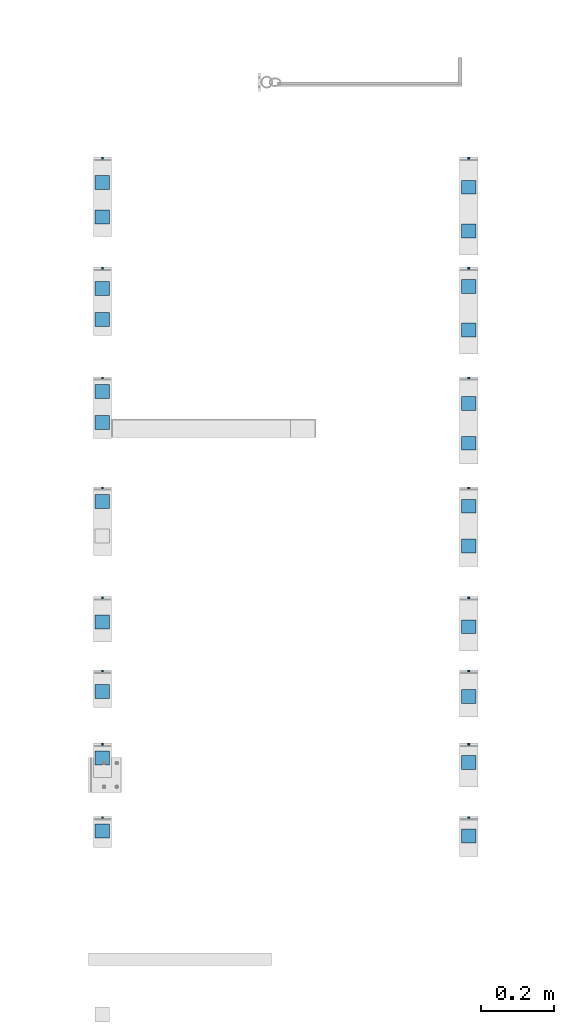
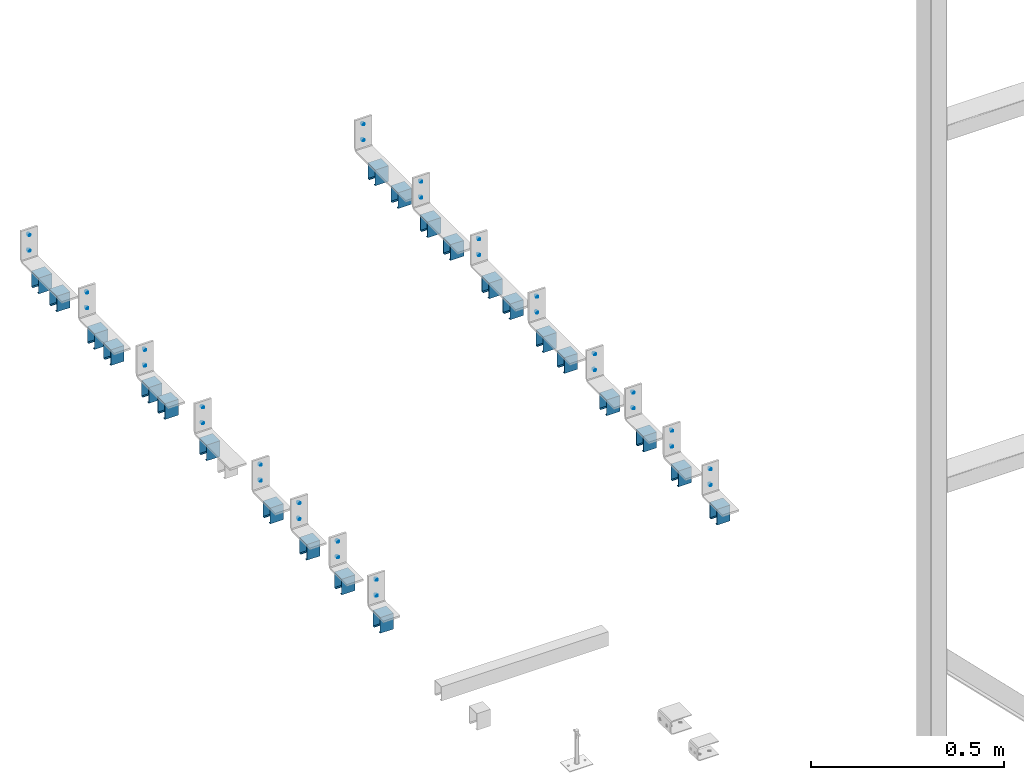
# One storey, part 58 of 91: 23 discrete accessories, 16 mechanical fasteners, 16 elements without a shape of their own.
"""IFC2X3 building model written with IfcOpenShell, lengths in millimetres."""

from ifc_helpers import new_model, si_unit, frame, origin_with_axes, origin_2d_with_axis, place, context, subcontext, project, spatial, circle, c_section, extrude, source, transform, mapped, material, type_object, element, aggregate, save


model = new_model("IFC2X3")

# Units and contexts
model_context = context("Model", 3, precision=1e-05, world=origin_with_axes())
body_context = subcontext(model_context, "Body", "Model", "MODEL_VIEW")
ifc_project = project(units=[si_unit("LENGTHUNIT", "METRE", prefix="MILLI"), si_unit("AREAUNIT", "SQUARE_METRE"), si_unit("VOLUMEUNIT", "CUBIC_METRE"), si_unit("MASSUNIT", "GRAM", prefix="KILO"), si_unit("TIMEUNIT", "SECOND"), si_unit("PLANEANGLEUNIT", "RADIAN"), si_unit("SOLIDANGLEUNIT", "STERADIAN"), si_unit("THERMODYNAMICTEMPERATUREUNIT", "DEGREE_CELSIUS"), si_unit("LUMINOUSINTENSITYUNIT", "LUMEN")], contexts=[model_context])

# Site, building, storey
site_placement = place(None, origin_with_axes())
site = spatial("IfcSite", under=ifc_project, at=site_placement, Name="Undefined", CompositionType="ELEMENT")
building_placement = place(site_placement, origin_with_axes())
building = spatial("IfcBuilding", under=site, at=building_placement, Name="Undefined", CompositionType="ELEMENT")
storey_placement = place(building_placement, origin_with_axes())
storey = spatial("IfcBuildingStorey", under=building, at=storey_placement, Name="Undefined", CompositionType="ELEMENT", Elevation=0.0)

# Assembly, mechanical fastener
assembly_1_placement = place(storey_placement, origin_with_axes())
assembly_1 = element("IfcElementAssembly", 1, at=assembly_1_placement, inside=storey, Name="SLIDING DOOR BRACKET", AssemblyPlace="NOTDEFINED", PredefinedType="RIGID_FRAME")
ifc_material_1 = material(Name="TEK_11TPIM")
discrete_accessory_type_1 = type_object("IfcDiscreteAccessoryType", Name="Bolt assembly")
shared_shape = source(origin_with_axes(), body_context, "Body", "SweptSolid", [
    extrude(circle(Radius=3.0, at=origin_2d_with_axis()), frame((0.0, -6.0, 0.0), z_axis=(0.0, 1.0, 0.0), x_axis=(1.0, 0.0, 0.0)), (0.0, 0.0, 1.0), 6.1),
])
mechanical_fastener_1_placement = place(assembly_1_placement, frame((-115795.84, 92552.15, 3521.0), z_axis=(1.0, 0.0, 0.0), x_axis=(0.0, 0.0, -1.0)))
mechanical_fastener_1 = element("IfcMechanicalFastener", 2, at=mechanical_fastener_1_placement, type_object=discrete_accessory_type_1, material=ifc_material_1, Name="Bolt assembly", NominalDiameter=6.0, NominalLength=16.0, context=body_context, shape_type="MappedRepresentation", body=[
    mapped(shared_shape, transform((0.0, 0.0, 0.0))),
    mapped(shared_shape, transform((50.0, 0.0, 0.0))),
])

assembly_2_placement = place(storey_placement, origin_with_axes())
assembly_2 = element("IfcElementAssembly", 3, at=assembly_2_placement, inside=storey, Name="SLIDING DOOR BRACKET", AssemblyPlace="NOTDEFINED", PredefinedType="RIGID_FRAME")
mechanical_fastener_2_placement = place(assembly_2_placement, frame((-115795.84, 92252.15, 3521.0), z_axis=(1.0, 0.0, 0.0), x_axis=(0.0, 0.0, -1.0)))
mechanical_fastener_2 = element("IfcMechanicalFastener", 4, at=mechanical_fastener_2_placement, type_object=discrete_accessory_type_1, material=ifc_material_1, Name="Bolt assembly", NominalDiameter=6.0, NominalLength=16.0, context=body_context, shape_type="MappedRepresentation", body=[
    mapped(shared_shape, transform((0.0, 0.0, 0.0))),
    mapped(shared_shape, transform((50.0, 0.0, 0.0))),
])

assembly_3_placement = place(storey_placement, origin_with_axes())
assembly_3 = element("IfcElementAssembly", 5, at=assembly_3_placement, inside=storey, Name="SLIDING DOOR BRACKET", AssemblyPlace="NOTDEFINED", PredefinedType="RIGID_FRAME")
mechanical_fastener_3_placement = place(assembly_3_placement, frame((-115795.84, 91952.15, 3521.0), z_axis=(1.0, 0.0, 0.0), x_axis=(0.0, 0.0, -1.0)))
mechanical_fastener_3 = element("IfcMechanicalFastener", 6, at=mechanical_fastener_3_placement, type_object=discrete_accessory_type_1, material=ifc_material_1, Name="Bolt assembly", NominalDiameter=6.0, NominalLength=16.0, context=body_context, shape_type="MappedRepresentation", body=[
    mapped(shared_shape, transform((0.0, 0.0, 0.0))),
    mapped(shared_shape, transform((50.0, 0.0, 0.0))),
])

assembly_4_placement = place(storey_placement, origin_with_axes())
assembly_4 = element("IfcElementAssembly", 7, at=assembly_4_placement, inside=storey, Name="SLIDING DOOR BRACKET", AssemblyPlace="NOTDEFINED", PredefinedType="RIGID_FRAME")
mechanical_fastener_4_placement = place(assembly_4_placement, frame((-115795.84, 91652.15, 3521.0), z_axis=(1.0, 0.0, 0.0), x_axis=(0.0, 0.0, -1.0)))
mechanical_fastener_4 = element("IfcMechanicalFastener", 8, at=mechanical_fastener_4_placement, type_object=discrete_accessory_type_1, material=ifc_material_1, Name="Bolt assembly", NominalDiameter=6.0, NominalLength=16.0, context=body_context, shape_type="MappedRepresentation", body=[
    mapped(shared_shape, transform((0.0, 0.0, 0.0))),
    mapped(shared_shape, transform((50.0, 0.0, 0.0))),
])

assembly_5_placement = place(storey_placement, origin_with_axes())
assembly_5 = element("IfcElementAssembly", 9, at=assembly_5_placement, inside=storey, Name="SLIDING DOOR BRACKET", AssemblyPlace="NOTDEFINED", PredefinedType="RIGID_FRAME")
mechanical_fastener_5_placement = place(assembly_5_placement, frame((-115795.84, 91352.15, 3521.0), z_axis=(1.0, 0.0, 0.0), x_axis=(0.0, 0.0, -1.0)))
mechanical_fastener_5 = element("IfcMechanicalFastener", 10, at=mechanical_fastener_5_placement, type_object=discrete_accessory_type_1, material=ifc_material_1, Name="Bolt assembly", NominalDiameter=6.0, NominalLength=16.0, context=body_context, shape_type="MappedRepresentation", body=[
    mapped(shared_shape, transform((0.0, 0.0, 0.0))),
    mapped(shared_shape, transform((50.0, 0.0, 0.0))),
])

assembly_6_placement = place(storey_placement, origin_with_axes())
assembly_6 = element("IfcElementAssembly", 11, at=assembly_6_placement, inside=storey, Name="SLIDING DOOR BRACKET", AssemblyPlace="NOTDEFINED", PredefinedType="RIGID_FRAME")
mechanical_fastener_6_placement = place(assembly_6_placement, frame((-115795.84, 91152.15, 3521.0), z_axis=(1.0, 0.0, 0.0), x_axis=(0.0, 0.0, -1.0)))
mechanical_fastener_6 = element("IfcMechanicalFastener", 12, at=mechanical_fastener_6_placement, type_object=discrete_accessory_type_1, material=ifc_material_1, Name="Bolt assembly", NominalDiameter=6.0, NominalLength=16.0, context=body_context, shape_type="MappedRepresentation", body=[
    mapped(shared_shape, transform((0.0, 0.0, 0.0))),
    mapped(shared_shape, transform((50.0, 0.0, 0.0))),
])

assembly_7_placement = place(storey_placement, origin_with_axes())
assembly_7 = element("IfcElementAssembly", 13, at=assembly_7_placement, inside=storey, Name="SLIDING DOOR BRACKET", AssemblyPlace="NOTDEFINED", PredefinedType="RIGID_FRAME")
mechanical_fastener_7_placement = place(assembly_7_placement, frame((-115795.84, 90952.15, 3521.0), z_axis=(1.0, 0.0, 0.0), x_axis=(0.0, 0.0, -1.0)))
mechanical_fastener_7 = element("IfcMechanicalFastener", 14, at=mechanical_fastener_7_placement, type_object=discrete_accessory_type_1, material=ifc_material_1, Name="Bolt assembly", NominalDiameter=6.0, NominalLength=16.0, context=body_context, shape_type="MappedRepresentation", body=[
    mapped(shared_shape, transform((0.0, 0.0, 0.0))),
    mapped(shared_shape, transform((50.0, 0.0, 0.0))),
])

assembly_8_placement = place(storey_placement, origin_with_axes())
assembly_8 = element("IfcElementAssembly", 15, at=assembly_8_placement, inside=storey, Name="SLIDING DOOR BRACKET", AssemblyPlace="NOTDEFINED", PredefinedType="RIGID_FRAME")
mechanical_fastener_8_placement = place(assembly_8_placement, frame((-115795.84, 90752.15, 3521.0), z_axis=(1.0, 0.0, 0.0), x_axis=(0.0, 0.0, -1.0)))
mechanical_fastener_8 = element("IfcMechanicalFastener", 16, at=mechanical_fastener_8_placement, type_object=discrete_accessory_type_1, material=ifc_material_1, Name="Bolt assembly", NominalDiameter=6.0, NominalLength=16.0, context=body_context, shape_type="MappedRepresentation", body=[
    mapped(shared_shape, transform((0.0, 0.0, 0.0))),
    mapped(shared_shape, transform((50.0, 0.0, 0.0))),
])

assembly_9_placement = place(storey_placement, origin_with_axes())
assembly_9 = element("IfcElementAssembly", 17, at=assembly_9_placement, inside=storey, Name="SLIDING DOOR BRACKET", AssemblyPlace="NOTDEFINED", PredefinedType="RIGID_FRAME")
mechanical_fastener_9_placement = place(assembly_9_placement, frame((-116795.84, 92552.15, 3521.0), z_axis=(1.0, 0.0, 0.0), x_axis=(0.0, 0.0, -1.0)))
mechanical_fastener_9 = element("IfcMechanicalFastener", 18, at=mechanical_fastener_9_placement, type_object=discrete_accessory_type_1, material=ifc_material_1, Name="Bolt assembly", NominalDiameter=6.0, NominalLength=16.0, context=body_context, shape_type="MappedRepresentation", body=[
    mapped(shared_shape, transform((0.0, 0.0, 0.0))),
    mapped(shared_shape, transform((50.0, 0.0, 0.0))),
])

assembly_10_placement = place(storey_placement, origin_with_axes())
assembly_10 = element("IfcElementAssembly", 19, at=assembly_10_placement, inside=storey, Name="SLIDING DOOR BRACKET", AssemblyPlace="NOTDEFINED", PredefinedType="RIGID_FRAME")
mechanical_fastener_10_placement = place(assembly_10_placement, frame((-116795.84, 92252.15, 3521.0), z_axis=(1.0, 0.0, 0.0), x_axis=(0.0, 0.0, -1.0)))
mechanical_fastener_10 = element("IfcMechanicalFastener", 20, at=mechanical_fastener_10_placement, type_object=discrete_accessory_type_1, material=ifc_material_1, Name="Bolt assembly", NominalDiameter=6.0, NominalLength=16.0, context=body_context, shape_type="MappedRepresentation", body=[
    mapped(shared_shape, transform((0.0, 0.0, 0.0))),
    mapped(shared_shape, transform((50.0, 0.0, 0.0))),
])

assembly_11_placement = place(storey_placement, origin_with_axes())
assembly_11 = element("IfcElementAssembly", 21, at=assembly_11_placement, inside=storey, Name="SLIDING DOOR BRACKET", AssemblyPlace="NOTDEFINED", PredefinedType="RIGID_FRAME")
mechanical_fastener_11_placement = place(assembly_11_placement, frame((-116795.84, 91952.15, 3521.0), z_axis=(1.0, 0.0, 0.0), x_axis=(0.0, 0.0, -1.0)))
mechanical_fastener_11 = element("IfcMechanicalFastener", 22, at=mechanical_fastener_11_placement, type_object=discrete_accessory_type_1, material=ifc_material_1, Name="Bolt assembly", NominalDiameter=6.0, NominalLength=16.0, context=body_context, shape_type="MappedRepresentation", body=[
    mapped(shared_shape, transform((0.0, 0.0, 0.0))),
    mapped(shared_shape, transform((50.0, 0.0, 0.0))),
])

assembly_12_placement = place(storey_placement, origin_with_axes())
assembly_12 = element("IfcElementAssembly", 23, at=assembly_12_placement, inside=storey, Name="SLIDING DOOR BRACKET", AssemblyPlace="NOTDEFINED", PredefinedType="RIGID_FRAME")
mechanical_fastener_12_placement = place(assembly_12_placement, frame((-116795.84, 91652.15, 3521.0), z_axis=(1.0, 0.0, 0.0), x_axis=(0.0, 0.0, -1.0)))
mechanical_fastener_12 = element("IfcMechanicalFastener", 24, at=mechanical_fastener_12_placement, type_object=discrete_accessory_type_1, material=ifc_material_1, Name="Bolt assembly", NominalDiameter=6.0, NominalLength=16.0, context=body_context, shape_type="MappedRepresentation", body=[
    mapped(shared_shape, transform((0.0, 0.0, 0.0))),
    mapped(shared_shape, transform((50.0, 0.0, 0.0))),
])

assembly_13_placement = place(storey_placement, origin_with_axes())
assembly_13 = element("IfcElementAssembly", 25, at=assembly_13_placement, inside=storey, Name="SLIDING DOOR BRACKET", AssemblyPlace="NOTDEFINED", PredefinedType="RIGID_FRAME")
mechanical_fastener_13_placement = place(assembly_13_placement, frame((-116795.84, 91352.15, 3521.0), z_axis=(1.0, 0.0, 0.0), x_axis=(0.0, 0.0, -1.0)))
mechanical_fastener_13 = element("IfcMechanicalFastener", 26, at=mechanical_fastener_13_placement, type_object=discrete_accessory_type_1, material=ifc_material_1, Name="Bolt assembly", NominalDiameter=6.0, NominalLength=16.0, context=body_context, shape_type="MappedRepresentation", body=[
    mapped(shared_shape, transform((0.0, 0.0, 0.0))),
    mapped(shared_shape, transform((50.0, 0.0, 0.0))),
])

assembly_14_placement = place(storey_placement, origin_with_axes())
assembly_14 = element("IfcElementAssembly", 27, at=assembly_14_placement, inside=storey, Name="SLIDING DOOR BRACKET", AssemblyPlace="NOTDEFINED", PredefinedType="RIGID_FRAME")
mechanical_fastener_14_placement = place(assembly_14_placement, frame((-116795.84, 91152.15, 3521.0), z_axis=(1.0, 0.0, 0.0), x_axis=(0.0, 0.0, -1.0)))
mechanical_fastener_14 = element("IfcMechanicalFastener", 28, at=mechanical_fastener_14_placement, type_object=discrete_accessory_type_1, material=ifc_material_1, Name="Bolt assembly", NominalDiameter=6.0, NominalLength=16.0, context=body_context, shape_type="MappedRepresentation", body=[
    mapped(shared_shape, transform((0.0, 0.0, 0.0))),
    mapped(shared_shape, transform((50.0, 0.0, 0.0))),
])

assembly_15_placement = place(storey_placement, origin_with_axes())
assembly_15 = element("IfcElementAssembly", 29, at=assembly_15_placement, inside=storey, Name="SLIDING DOOR BRACKET", AssemblyPlace="NOTDEFINED", PredefinedType="RIGID_FRAME")
mechanical_fastener_15_placement = place(assembly_15_placement, frame((-116795.84, 90952.15, 3521.0), z_axis=(1.0, 0.0, 0.0), x_axis=(0.0, 0.0, -1.0)))
mechanical_fastener_15 = element("IfcMechanicalFastener", 30, at=mechanical_fastener_15_placement, type_object=discrete_accessory_type_1, material=ifc_material_1, Name="Bolt assembly", NominalDiameter=6.0, NominalLength=16.0, context=body_context, shape_type="MappedRepresentation", body=[
    mapped(shared_shape, transform((0.0, 0.0, 0.0))),
    mapped(shared_shape, transform((50.0, 0.0, 0.0))),
])

assembly_16_placement = place(storey_placement, origin_with_axes())
assembly_16 = element("IfcElementAssembly", 31, at=assembly_16_placement, inside=storey, Name="SLIDING DOOR BRACKET", AssemblyPlace="NOTDEFINED", PredefinedType="RIGID_FRAME")
mechanical_fastener_16_placement = place(assembly_16_placement, frame((-116795.84, 90752.15, 3521.0), z_axis=(1.0, 0.0, 0.0), x_axis=(0.0, 0.0, -1.0)))
mechanical_fastener_16 = element("IfcMechanicalFastener", 32, at=mechanical_fastener_16_placement, type_object=discrete_accessory_type_1, material=ifc_material_1, Name="Bolt assembly", NominalDiameter=6.0, NominalLength=16.0, context=body_context, shape_type="MappedRepresentation", body=[
    mapped(shared_shape, transform((0.0, 0.0, 0.0))),
    mapped(shared_shape, transform((50.0, 0.0, 0.0))),
])

# Discrete accessory
ifc_material_2 = material(Name="STEEL/Steel_Undefined")
discrete_accessory_type_2 = type_object("IfcDiscreteAccessoryType", Name="TOP TRACK BRACKET")
discrete_accessory_1_placement = place(assembly_1_placement, frame((-115815.84, 92351.15, 3416.0), z_axis=(0.0, -1.0, 0.0), x_axis=(1.0, 0.0, 0.0)))
discrete_accessory_1 = element("IfcDiscreteAccessory", 33, at=discrete_accessory_1_placement, type_object=discrete_accessory_type_2, material=ifc_material_2, Name="TOP TRACK BRACKET", ObjectType="CC38-1.5-7-50", context=body_context, shape_type="SweptSolid", body=[
    extrude(c_section(Depth=38.0, Width=50.0, WallThickness=1.5, Girth=7.0, at=origin_2d_with_axis()), frame((40.0, 0.0, 0.0), z_axis=(-1.0, 0.0, 0.0), x_axis=(0.0, -1.0, 0.0)), (0.0, 0.0, 1.0), 40.0),
])

discrete_accessory_2_placement = place(assembly_1_placement, frame((-115815.84, 92470.15, 3416.0), z_axis=(0.0, -1.0, 0.0), x_axis=(1.0, 0.0, 0.0)))
discrete_accessory_2 = element("IfcDiscreteAccessory", 34, at=discrete_accessory_2_placement, type_object=discrete_accessory_type_2, material=ifc_material_2, Name="TOP TRACK BRACKET", ObjectType="CC38-1.5-7-50", context=body_context, shape_type="SweptSolid", body=[
    extrude(c_section(Depth=38.0, Width=50.0, WallThickness=1.5, Girth=7.0, at=origin_2d_with_axis()), frame((40.0, 0.0, 0.0), z_axis=(-1.0, 0.0, 0.0), x_axis=(0.0, -1.0, 0.0)), (0.0, 0.0, 1.0), 40.0),
])

aggregate(assembly_1, [mechanical_fastener_1, discrete_accessory_1, discrete_accessory_2])

discrete_accessory_3_placement = place(assembly_2_placement, frame((-115815.84, 92080.15, 3416.0), z_axis=(0.0, -1.0, 0.0), x_axis=(1.0, 0.0, 0.0)))
discrete_accessory_3 = element("IfcDiscreteAccessory", 35, at=discrete_accessory_3_placement, type_object=discrete_accessory_type_2, material=ifc_material_2, Name="TOP TRACK BRACKET", ObjectType="CC38-1.5-7-50", context=body_context, shape_type="SweptSolid", body=[
    extrude(c_section(Depth=38.0, Width=50.0, WallThickness=1.5, Girth=7.0, at=origin_2d_with_axis()), frame((40.0, 0.0, 0.0), z_axis=(-1.0, 0.0, 0.0), x_axis=(0.0, -1.0, 0.0)), (0.0, 0.0, 1.0), 40.0),
])

discrete_accessory_4_placement = place(assembly_2_placement, frame((-115815.84, 92199.15, 3416.0), z_axis=(0.0, -1.0, 0.0), x_axis=(1.0, 0.0, 0.0)))
discrete_accessory_4 = element("IfcDiscreteAccessory", 36, at=discrete_accessory_4_placement, type_object=discrete_accessory_type_2, material=ifc_material_2, Name="TOP TRACK BRACKET", ObjectType="CC38-1.5-7-50", context=body_context, shape_type="SweptSolid", body=[
    extrude(c_section(Depth=38.0, Width=50.0, WallThickness=1.5, Girth=7.0, at=origin_2d_with_axis()), frame((40.0, 0.0, 0.0), z_axis=(-1.0, 0.0, 0.0), x_axis=(0.0, -1.0, 0.0)), (0.0, 0.0, 1.0), 40.0),
])

aggregate(assembly_2, [mechanical_fastener_2, discrete_accessory_3, discrete_accessory_4])

discrete_accessory_5_placement = place(assembly_3_placement, frame((-115815.84, 91771.15, 3416.0), z_axis=(0.0, -1.0, 0.0), x_axis=(1.0, 0.0, 0.0)))
discrete_accessory_5 = element("IfcDiscreteAccessory", 37, at=discrete_accessory_5_placement, type_object=discrete_accessory_type_2, material=ifc_material_2, Name="TOP TRACK BRACKET", ObjectType="CC38-1.5-7-50", context=body_context, shape_type="SweptSolid", body=[
    extrude(c_section(Depth=38.0, Width=50.0, WallThickness=1.5, Girth=7.0, at=origin_2d_with_axis()), frame((40.0, 0.0, 0.0), z_axis=(-1.0, 0.0, 0.0), x_axis=(0.0, -1.0, 0.0)), (0.0, 0.0, 1.0), 40.0),
])

discrete_accessory_6_placement = place(assembly_3_placement, frame((-115815.84, 91880.15, 3416.0), z_axis=(0.0, -1.0, 0.0), x_axis=(1.0, 0.0, 0.0)))
discrete_accessory_6 = element("IfcDiscreteAccessory", 38, at=discrete_accessory_6_placement, type_object=discrete_accessory_type_2, material=ifc_material_2, Name="TOP TRACK BRACKET", ObjectType="CC38-1.5-7-50", context=body_context, shape_type="SweptSolid", body=[
    extrude(c_section(Depth=38.0, Width=50.0, WallThickness=1.5, Girth=7.0, at=origin_2d_with_axis()), frame((40.0, 0.0, 0.0), z_axis=(-1.0, 0.0, 0.0), x_axis=(0.0, -1.0, 0.0)), (0.0, 0.0, 1.0), 40.0),
])

aggregate(assembly_3, [mechanical_fastener_3, discrete_accessory_5, discrete_accessory_6])

discrete_accessory_7_placement = place(assembly_4_placement, frame((-115815.84, 91490.15, 3416.0), z_axis=(0.0, -1.0, 0.0), x_axis=(1.0, 0.0, 0.0)))
discrete_accessory_7 = element("IfcDiscreteAccessory", 39, at=discrete_accessory_7_placement, type_object=discrete_accessory_type_2, material=ifc_material_2, Name="TOP TRACK BRACKET", ObjectType="CC38-1.5-7-50", context=body_context, shape_type="SweptSolid", body=[
    extrude(c_section(Depth=38.0, Width=50.0, WallThickness=1.5, Girth=7.0, at=origin_2d_with_axis()), frame((40.0, 0.0, 0.0), z_axis=(-1.0, 0.0, 0.0), x_axis=(0.0, -1.0, 0.0)), (0.0, 0.0, 1.0), 40.0),
])

discrete_accessory_8_placement = place(assembly_4_placement, frame((-115815.84, 91599.15, 3416.0), z_axis=(0.0, -1.0, 0.0), x_axis=(1.0, 0.0, 0.0)))
discrete_accessory_8 = element("IfcDiscreteAccessory", 40, at=discrete_accessory_8_placement, type_object=discrete_accessory_type_2, material=ifc_material_2, Name="TOP TRACK BRACKET", ObjectType="CC38-1.5-7-50", context=body_context, shape_type="SweptSolid", body=[
    extrude(c_section(Depth=38.0, Width=50.0, WallThickness=1.5, Girth=7.0, at=origin_2d_with_axis()), frame((40.0, 0.0, 0.0), z_axis=(-1.0, 0.0, 0.0), x_axis=(0.0, -1.0, 0.0)), (0.0, 0.0, 1.0), 40.0),
])

aggregate(assembly_4, [mechanical_fastener_4, discrete_accessory_7, discrete_accessory_8])

discrete_accessory_9_placement = place(assembly_5_placement, frame((-115815.84, 91270.15, 3416.0), z_axis=(0.0, -1.0, 0.0), x_axis=(1.0, 0.0, 0.0)))
discrete_accessory_9 = element("IfcDiscreteAccessory", 41, at=discrete_accessory_9_placement, type_object=discrete_accessory_type_2, material=ifc_material_2, Name="TOP TRACK BRACKET", ObjectType="CC38-1.5-7-50", context=body_context, shape_type="SweptSolid", body=[
    extrude(c_section(Depth=38.0, Width=50.0, WallThickness=1.5, Girth=7.0, at=origin_2d_with_axis()), frame((40.0, 0.0, 0.0), z_axis=(-1.0, 0.0, 0.0), x_axis=(0.0, -1.0, 0.0)), (0.0, 0.0, 1.0), 40.0),
])

aggregate(assembly_5, [mechanical_fastener_5, discrete_accessory_9])

discrete_accessory_10_placement = place(assembly_6_placement, frame((-115815.84, 91080.15, 3416.0), z_axis=(0.0, -1.0, 0.0), x_axis=(1.0, 0.0, 0.0)))
discrete_accessory_10 = element("IfcDiscreteAccessory", 42, at=discrete_accessory_10_placement, type_object=discrete_accessory_type_2, material=ifc_material_2, Name="TOP TRACK BRACKET", ObjectType="CC38-1.5-7-50", context=body_context, shape_type="SweptSolid", body=[
    extrude(c_section(Depth=38.0, Width=50.0, WallThickness=1.5, Girth=7.0, at=origin_2d_with_axis()), frame((40.0, 0.0, 0.0), z_axis=(-1.0, 0.0, 0.0), x_axis=(0.0, -1.0, 0.0)), (0.0, 0.0, 1.0), 40.0),
])

aggregate(assembly_6, [mechanical_fastener_6, discrete_accessory_10])

discrete_accessory_11_placement = place(assembly_7_placement, frame((-115815.84, 90899.15, 3416.0), z_axis=(0.0, -1.0, 0.0), x_axis=(1.0, 0.0, 0.0)))
discrete_accessory_11 = element("IfcDiscreteAccessory", 43, at=discrete_accessory_11_placement, type_object=discrete_accessory_type_2, material=ifc_material_2, Name="TOP TRACK BRACKET", ObjectType="CC38-1.5-7-50", context=body_context, shape_type="SweptSolid", body=[
    extrude(c_section(Depth=38.0, Width=50.0, WallThickness=1.5, Girth=7.0, at=origin_2d_with_axis()), frame((40.0, 0.0, 0.0), z_axis=(-1.0, 0.0, 0.0), x_axis=(0.0, -1.0, 0.0)), (0.0, 0.0, 1.0), 40.0),
])

aggregate(assembly_7, [mechanical_fastener_7, discrete_accessory_11])

discrete_accessory_12_placement = place(assembly_8_placement, frame((-115815.84, 90699.15, 3416.0), z_axis=(0.0, -1.0, 0.0), x_axis=(1.0, 0.0, 0.0)))
discrete_accessory_12 = element("IfcDiscreteAccessory", 44, at=discrete_accessory_12_placement, type_object=discrete_accessory_type_2, material=ifc_material_2, Name="TOP TRACK BRACKET", ObjectType="CC38-1.5-7-50", context=body_context, shape_type="SweptSolid", body=[
    extrude(c_section(Depth=38.0, Width=50.0, WallThickness=1.5, Girth=7.0, at=origin_2d_with_axis()), frame((40.0, 0.0, 0.0), z_axis=(-1.0, 0.0, 0.0), x_axis=(0.0, -1.0, 0.0)), (0.0, 0.0, 1.0), 40.0),
])

aggregate(assembly_8, [mechanical_fastener_8, discrete_accessory_12])

discrete_accessory_13_placement = place(assembly_9_placement, frame((-116815.84, 92389.15, 3416.0), z_axis=(0.0, -1.0, 0.0), x_axis=(1.0, 0.0, 0.0)))
discrete_accessory_13 = element("IfcDiscreteAccessory", 45, at=discrete_accessory_13_placement, type_object=discrete_accessory_type_2, material=ifc_material_2, Name="TOP TRACK BRACKET", ObjectType="CC38-1.5-7-50", context=body_context, shape_type="SweptSolid", body=[
    extrude(c_section(Depth=38.0, Width=50.0, WallThickness=1.5, Girth=7.0, at=origin_2d_with_axis()), frame((40.0, 0.0, 0.0), z_axis=(-1.0, 0.0, 0.0), x_axis=(0.0, -1.0, 0.0)), (0.0, 0.0, 1.0), 40.0),
])

discrete_accessory_14_placement = place(assembly_9_placement, frame((-116815.84, 92483.15, 3416.0), z_axis=(0.0, -1.0, 0.0), x_axis=(1.0, 0.0, 0.0)))
discrete_accessory_14 = element("IfcDiscreteAccessory", 46, at=discrete_accessory_14_placement, type_object=discrete_accessory_type_2, material=ifc_material_2, Name="TOP TRACK BRACKET", ObjectType="CC38-1.5-7-50", context=body_context, shape_type="SweptSolid", body=[
    extrude(c_section(Depth=38.0, Width=50.0, WallThickness=1.5, Girth=7.0, at=origin_2d_with_axis()), frame((40.0, 0.0, 0.0), z_axis=(-1.0, 0.0, 0.0), x_axis=(0.0, -1.0, 0.0)), (0.0, 0.0, 1.0), 40.0),
])

aggregate(assembly_9, [mechanical_fastener_9, discrete_accessory_13, discrete_accessory_14])

discrete_accessory_15_placement = place(assembly_10_placement, frame((-116815.84, 92109.15, 3416.0), z_axis=(0.0, -1.0, 0.0), x_axis=(1.0, 0.0, 0.0)))
discrete_accessory_15 = element("IfcDiscreteAccessory", 47, at=discrete_accessory_15_placement, type_object=discrete_accessory_type_2, material=ifc_material_2, Name="TOP TRACK BRACKET", ObjectType="CC38-1.5-7-50", context=body_context, shape_type="SweptSolid", body=[
    extrude(c_section(Depth=38.0, Width=50.0, WallThickness=1.5, Girth=7.0, at=origin_2d_with_axis()), frame((40.0, 0.0, 0.0), z_axis=(-1.0, 0.0, 0.0), x_axis=(0.0, -1.0, 0.0)), (0.0, 0.0, 1.0), 40.0),
])

discrete_accessory_16_placement = place(assembly_10_placement, frame((-116815.84, 92193.15, 3416.0), z_axis=(0.0, -1.0, 0.0), x_axis=(1.0, 0.0, 0.0)))
discrete_accessory_16 = element("IfcDiscreteAccessory", 48, at=discrete_accessory_16_placement, type_object=discrete_accessory_type_2, material=ifc_material_2, Name="TOP TRACK BRACKET", ObjectType="CC38-1.5-7-50", context=body_context, shape_type="SweptSolid", body=[
    extrude(c_section(Depth=38.0, Width=50.0, WallThickness=1.5, Girth=7.0, at=origin_2d_with_axis()), frame((40.0, 0.0, 0.0), z_axis=(-1.0, 0.0, 0.0), x_axis=(0.0, -1.0, 0.0)), (0.0, 0.0, 1.0), 40.0),
])

aggregate(assembly_10, [mechanical_fastener_10, discrete_accessory_15, discrete_accessory_16])

discrete_accessory_17_placement = place(assembly_11_placement, frame((-116815.84, 91828.15, 3416.0), z_axis=(0.0, -1.0, 0.0), x_axis=(1.0, 0.0, 0.0)))
discrete_accessory_17 = element("IfcDiscreteAccessory", 49, at=discrete_accessory_17_placement, type_object=discrete_accessory_type_2, material=ifc_material_2, Name="TOP TRACK BRACKET", ObjectType="CC38-1.5-7-50", context=body_context, shape_type="SweptSolid", body=[
    extrude(c_section(Depth=38.0, Width=50.0, WallThickness=1.5, Girth=7.0, at=origin_2d_with_axis()), frame((40.0, 0.0, 0.0), z_axis=(-1.0, 0.0, 0.0), x_axis=(0.0, -1.0, 0.0)), (0.0, 0.0, 1.0), 40.0),
])

discrete_accessory_18_placement = place(assembly_11_placement, frame((-116815.84, 91912.15, 3416.0), z_axis=(0.0, -1.0, 0.0), x_axis=(1.0, 0.0, 0.0)))
discrete_accessory_18 = element("IfcDiscreteAccessory", 50, at=discrete_accessory_18_placement, type_object=discrete_accessory_type_2, material=ifc_material_2, Name="TOP TRACK BRACKET", ObjectType="CC38-1.5-7-50", context=body_context, shape_type="SweptSolid", body=[
    extrude(c_section(Depth=38.0, Width=50.0, WallThickness=1.5, Girth=7.0, at=origin_2d_with_axis()), frame((40.0, 0.0, 0.0), z_axis=(-1.0, 0.0, 0.0), x_axis=(0.0, -1.0, 0.0)), (0.0, 0.0, 1.0), 40.0),
])

aggregate(assembly_11, [mechanical_fastener_11, discrete_accessory_17, discrete_accessory_18])

discrete_accessory_19_placement = place(assembly_12_placement, frame((-116815.84, 91612.15, 3416.0), z_axis=(0.0, -1.0, 0.0), x_axis=(1.0, 0.0, 0.0)))
discrete_accessory_19 = element("IfcDiscreteAccessory", 51, at=discrete_accessory_19_placement, type_object=discrete_accessory_type_2, material=ifc_material_2, Name="TOP TRACK BRACKET", ObjectType="CC38-1.5-7-50", context=body_context, shape_type="SweptSolid", body=[
    extrude(c_section(Depth=38.0, Width=50.0, WallThickness=1.5, Girth=7.0, at=origin_2d_with_axis()), frame((40.0, 0.0, 0.0), z_axis=(-1.0, 0.0, 0.0), x_axis=(0.0, -1.0, 0.0)), (0.0, 0.0, 1.0), 40.0),
])

aggregate(assembly_12, [mechanical_fastener_12, discrete_accessory_19])

discrete_accessory_20_placement = place(assembly_13_placement, frame((-116815.84, 91283.15, 3416.0), z_axis=(0.0, -1.0, 0.0), x_axis=(1.0, 0.0, 0.0)))
discrete_accessory_20 = element("IfcDiscreteAccessory", 52, at=discrete_accessory_20_placement, type_object=discrete_accessory_type_2, material=ifc_material_2, Name="TOP TRACK BRACKET", ObjectType="CC38-1.5-7-50", context=body_context, shape_type="SweptSolid", body=[
    extrude(c_section(Depth=38.0, Width=50.0, WallThickness=1.5, Girth=7.0, at=origin_2d_with_axis()), frame((40.0, 0.0, 0.0), z_axis=(-1.0, 0.0, 0.0), x_axis=(0.0, -1.0, 0.0)), (0.0, 0.0, 1.0), 40.0),
])

aggregate(assembly_13, [mechanical_fastener_13, discrete_accessory_20])

discrete_accessory_21_placement = place(assembly_14_placement, frame((-116815.84, 91093.15, 3416.0), z_axis=(0.0, -1.0, 0.0), x_axis=(1.0, 0.0, 0.0)))
discrete_accessory_21 = element("IfcDiscreteAccessory", 53, at=discrete_accessory_21_placement, type_object=discrete_accessory_type_2, material=ifc_material_2, Name="TOP TRACK BRACKET", ObjectType="CC38-1.5-7-50", context=body_context, shape_type="SweptSolid", body=[
    extrude(c_section(Depth=38.0, Width=50.0, WallThickness=1.5, Girth=7.0, at=origin_2d_with_axis()), frame((40.0, 0.0, 0.0), z_axis=(-1.0, 0.0, 0.0), x_axis=(0.0, -1.0, 0.0)), (0.0, 0.0, 1.0), 40.0),
])

aggregate(assembly_14, [mechanical_fastener_14, discrete_accessory_21])

discrete_accessory_22_placement = place(assembly_15_placement, frame((-116815.84, 90912.15, 3416.0), z_axis=(0.0, -1.0, 0.0), x_axis=(1.0, 0.0, 0.0)))
discrete_accessory_22 = element("IfcDiscreteAccessory", 54, at=discrete_accessory_22_placement, type_object=discrete_accessory_type_2, material=ifc_material_2, Name="TOP TRACK BRACKET", ObjectType="CC38-1.5-7-50", context=body_context, shape_type="SweptSolid", body=[
    extrude(c_section(Depth=38.0, Width=50.0, WallThickness=1.5, Girth=7.0, at=origin_2d_with_axis()), frame((40.0, 0.0, 0.0), z_axis=(-1.0, 0.0, 0.0), x_axis=(0.0, -1.0, 0.0)), (0.0, 0.0, 1.0), 40.0),
])

aggregate(assembly_15, [discrete_accessory_22, mechanical_fastener_15])

discrete_accessory_23_placement = place(assembly_16_placement, frame((-116815.84, 90712.15, 3416.0), z_axis=(0.0, -1.0, 0.0), x_axis=(1.0, 0.0, 0.0)))
discrete_accessory_23 = element("IfcDiscreteAccessory", 55, at=discrete_accessory_23_placement, type_object=discrete_accessory_type_2, material=ifc_material_2, Name="TOP TRACK BRACKET", ObjectType="CC38-1.5-7-50", context=body_context, shape_type="SweptSolid", body=[
    extrude(c_section(Depth=38.0, Width=50.0, WallThickness=1.5, Girth=7.0, at=origin_2d_with_axis()), frame((40.0, 0.0, 0.0), z_axis=(-1.0, 0.0, 0.0), x_axis=(0.0, -1.0, 0.0)), (0.0, 0.0, 1.0), 40.0),
])

aggregate(assembly_16, [mechanical_fastener_16, discrete_accessory_23])

save(model, "model.ifc")
